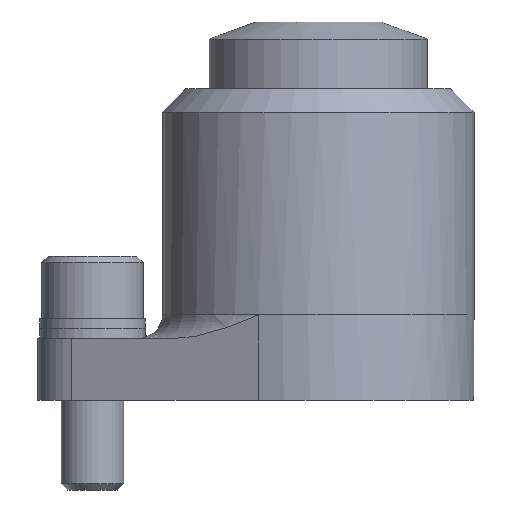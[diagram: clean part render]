
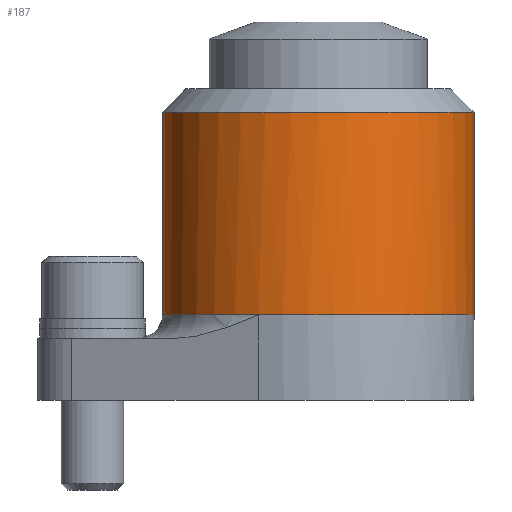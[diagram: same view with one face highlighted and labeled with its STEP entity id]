
A CAD part, front view. The second image highlights one B-rep face of the part: STEP entity #187.
In plain terms, the highlighted cylindrical face has radius 20 mm (diameter 40 mm), a partial arc.
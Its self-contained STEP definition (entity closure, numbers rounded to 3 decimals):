
#187=ADVANCED_FACE('',(#298),#262,.T.);
#262=CYLINDRICAL_SURFACE('',#1337,20.);
#298=FACE_OUTER_BOUND('',#362,.T.);
#362=EDGE_LOOP('',(#562,#563,#564,#565,#566));
#448=CIRCLE('',#1312,20.);
#466=CIRCLE('',#1335,20.);
#467=CIRCLE('',#1336,20.);
#562=ORIENTED_EDGE('',*,*,#979,.T.);
#563=ORIENTED_EDGE('',*,*,#1004,.T.);
#564=ORIENTED_EDGE('',*,*,#1005,.F.);
#565=ORIENTED_EDGE('',*,*,#1002,.F.);
#566=ORIENTED_EDGE('',*,*,#1006,.T.);
#870=VERTEX_POINT('',#1877);
#871=VERTEX_POINT('',#1879);
#889=VERTEX_POINT('',#1923);
#890=VERTEX_POINT('',#1925);
#891=VERTEX_POINT('',#1927);
#979=EDGE_CURVE('',#871,#870,#448,.T.);
#1002=EDGE_CURVE('',#889,#890,#1153,.T.);
#1004=EDGE_CURVE('',#870,#891,#1154,.T.);
#1005=EDGE_CURVE('',#890,#891,#466,.T.);
#1006=EDGE_CURVE('',#889,#871,#467,.T.);
#1153=LINE('',#1924,#1235);
#1154=LINE('',#1928,#1236);
#1235=VECTOR('',#1523,1.);
#1236=VECTOR('',#1526,1.);
#1312=AXIS2_PLACEMENT_3D('',#1878,#1475,#1476);
#1335=AXIS2_PLACEMENT_3D('',#1930,#1529,#1530);
#1336=AXIS2_PLACEMENT_3D('',#1931,#1531,#1532);
#1337=AXIS2_PLACEMENT_3D('',#1932,#1533,#1534);
#1475=DIRECTION('',(0.,0.,1.));
#1476=DIRECTION('',(-0.477,-0.879,0.));
#1523=DIRECTION('',(0.,0.,1.));
#1526=DIRECTION('',(0.,0.,1.));
#1529=DIRECTION('',(0.,0.,1.));
#1530=DIRECTION('',(0.,1.,0.));
#1531=DIRECTION('',(0.,0.,1.));
#1532=DIRECTION('',(0.,1.,0.));
#1533=DIRECTION('',(0.,0.,1.));
#1534=DIRECTION('',(0.,-1.,0.));
#1877=CARTESIAN_POINT('',(20.,0.,11.));
#1878=CARTESIAN_POINT('',(0.,0.,11.));
#1879=CARTESIAN_POINT('',(-7.692,-18.462,11.));
#1923=CARTESIAN_POINT('',(-20.,0.,11.));
#1924=CARTESIAN_POINT('',(-20.,0.,37.));
#1925=CARTESIAN_POINT('',(-20.,0.,37.));
#1927=CARTESIAN_POINT('',(20.,0.,37.));
#1928=CARTESIAN_POINT('',(20.,0.,37.));
#1930=CARTESIAN_POINT('',(0.,0.,37.));
#1931=CARTESIAN_POINT('',(0.,0.,11.));
#1932=CARTESIAN_POINT('',(0.,0.,0.));
